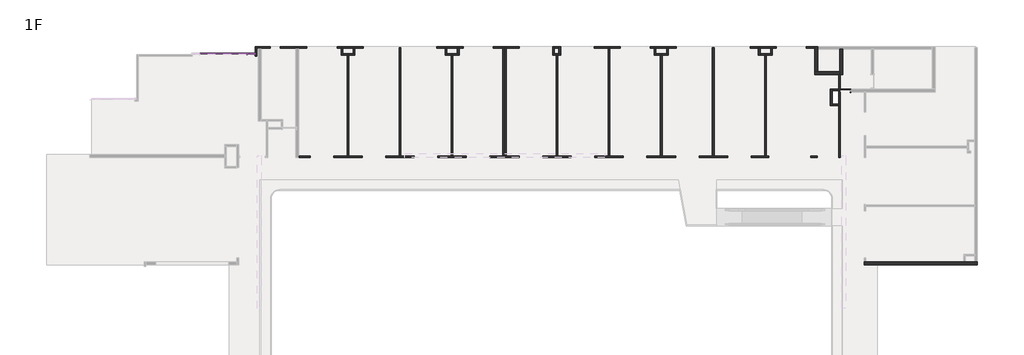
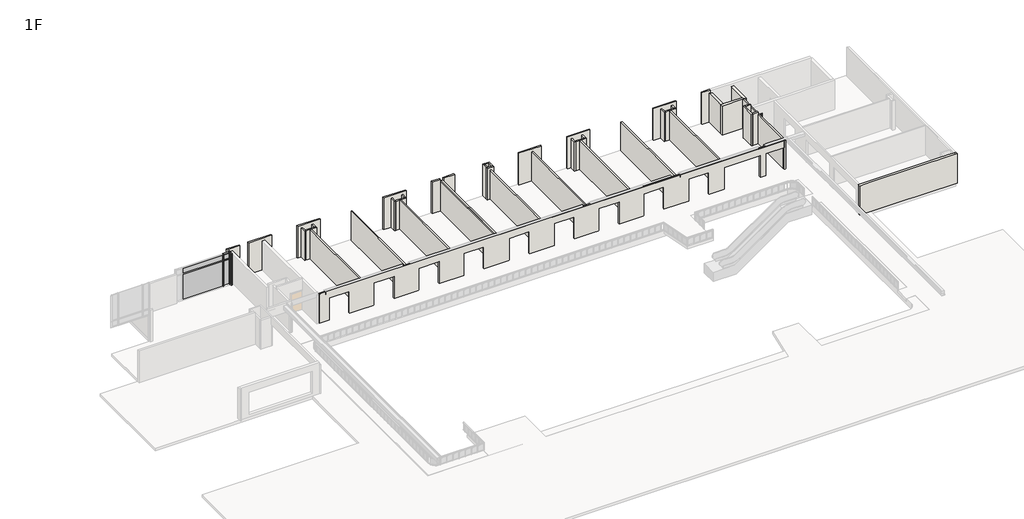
# One storey, part 4 of 5: 46 walls, 6 members, 4 plates, 1 door.
"""IFC4 building model written with IfcOpenShell, lengths in millimetres."""

from ifc_helpers import new_model, si_unit, frame, origin, place, context, project, spatial, polyline, outline, extrude, faceted_brep, transform, mapped, element, save
from components import m_single_flush_d_900x2150_afd04a23, rectangular_mullion_50_x_150mm_68b3818a, rectangular_mullion_50_x_150mm_64d38db8, rectangular_mullion_50_x_150mm_9e0f1e24, rectangular_mullion_50_x_150mm_dbb82e9e, rectangular_mullion_50_x_150mm_567c0dda, rectangular_mullion_50_x_150mm_fb6851b2, system_panel_glazed_6ff5b55b, system_panel_glazed_93ed122c, system_panel_glazed_ec0e8b53, system_panel_glazed_6d2359c6

model = new_model("IFC4")

# Units and contexts
model_context = context("Model", 3, world=origin())
ifc_project = project(units=[si_unit("LENGTHUNIT", "METRE", prefix="MILLI")], contexts=[model_context])

# Site, building, storey
site = spatial("IfcSite", under=ifc_project)
building = spatial("IfcBuilding", under=site)
storey = spatial("IfcBuildingStorey", under=building, Name="1F", Elevation=4650.0)

# Door
placement = place(None, origin())
m_single_flush_d_900x2150_shape = m_single_flush_d_900x2150_afd04a23(model_context)
element("IfcDoor", 1, ObjectType="M_Single-Flush : D-900x2150", at=placement, inside=storey, context=model_context, shape_type="MappedRepresentation", body=[
    mapped(m_single_flush_d_900x2150_shape, transform((31237.4134101, 17335.8851348, 4650.0), x_axis=(-1.0, 0.0, 0.0), y_axis=(0.0, -1.0, 0.0), z_axis=(0.0, 0.0, 1.0))),
])

# Members
rectangular_mullion_50_x_150mm_shape = rectangular_mullion_50_x_150mm_68b3818a(model_context)
element("IfcMember", 2, ObjectType="Rectangular Mullion : 50 x 150mm", at=placement, inside=storey, context=model_context, shape_type="MappedRepresentation", body=[
    mapped(rectangular_mullion_50_x_150mm_shape, transform((-21742.5865899, 20597.3851347, 7525.0), x_axis=(0.0, 0.0, 1.0), y_axis=(0.0, 1.0, 0.0), z_axis=(-1.0, 0.0, 0.0))),
])
rectangular_mullion_50_x_150mm_2_shape = rectangular_mullion_50_x_150mm_64d38db8(model_context)
element("IfcMember", 3, ObjectType="Rectangular Mullion : 50 x 150mm", at=placement, inside=storey, context=model_context, shape_type="MappedRepresentation", body=[
    mapped(rectangular_mullion_50_x_150mm_2_shape, transform((-21742.5865899, 20597.3851347, 8200.0), x_axis=(0.0, 0.0, 1.0), y_axis=(0.0, 1.0, 0.0), z_axis=(-1.0, 0.0, 0.0))),
])
rectangular_mullion_50_x_150mm_3_shape = rectangular_mullion_50_x_150mm_9e0f1e24(model_context)
element("IfcMember", 4, ObjectType="Rectangular Mullion : 50 x 150mm", at=placement, inside=storey, context=model_context, shape_type="MappedRepresentation", body=[
    mapped(rectangular_mullion_50_x_150mm_3_shape, transform((-21767.5865899, 20597.3851347, 7525.0), x_axis=(-1.0, 0.0, 0.0), y_axis=(0.0, 1.0, 0.0), z_axis=(0.0, 0.0, -1.0))),
])
rectangular_mullion_50_x_150mm_4_shape = rectangular_mullion_50_x_150mm_dbb82e9e(model_context)
element("IfcMember", 5, ObjectType="Rectangular Mullion : 50 x 150mm", at=placement, inside=storey, context=model_context, shape_type="MappedRepresentation", body=[
    mapped(rectangular_mullion_50_x_150mm_4_shape, transform((-21092.5865899, 20597.3851347, 8200.0), x_axis=(1.0, 0.0, 0.0), y_axis=(0.0, 1.0, 0.0), z_axis=(0.0, 0.0, 1.0))),
])
rectangular_mullion_50_x_150mm_5_shape = rectangular_mullion_50_x_150mm_567c0dda(model_context)
element("IfcMember", 6, ObjectType="Rectangular Mullion : 50 x 150mm", at=placement, inside=storey, context=model_context, shape_type="MappedRepresentation", body=[
    mapped(rectangular_mullion_50_x_150mm_5_shape, transform((-21767.5865899, 20597.3851347, 4750.0), x_axis=(-1.0, 0.0, 0.0), y_axis=(0.0, 1.0, 0.0), z_axis=(0.0, 0.0, -1.0))),
])
rectangular_mullion_50_x_150mm_6_shape = rectangular_mullion_50_x_150mm_fb6851b2(model_context)
element("IfcMember", 7, ObjectType="Rectangular Mullion : 50 x 150mm", at=placement, inside=storey, context=model_context, shape_type="MappedRepresentation", body=[
    mapped(rectangular_mullion_50_x_150mm_6_shape, transform((-21092.5865899, 20597.3851347, 7525.0), x_axis=(1.0, 0.0, 0.0), y_axis=(0.0, 1.0, 0.0), z_axis=(0.0, 0.0, 1.0))),
])

# Plates
system_panel_glazed_shape = system_panel_glazed_6ff5b55b(model_context)
element("IfcPlate", 8, ObjectType="System Panel : Glazed", at=placement, inside=storey, context=model_context, shape_type="MappedRepresentation", body=[
    mapped(system_panel_glazed_shape, transform((-21442.5865899, 20597.3851347, 4750.0), x_axis=(-1.0, 0.0, 0.0), y_axis=(0.0, -1.0, 0.0), z_axis=(0.0, 0.0, 1.0))),
])
system_panel_glazed_2_shape = system_panel_glazed_93ed122c(model_context)
element("IfcPlate", 9, ObjectType="System Panel : Glazed", at=placement, inside=storey, context=model_context, shape_type="MappedRepresentation", body=[
    mapped(system_panel_glazed_2_shape, transform((-21442.5865899, 20597.3851347, 7550.0), x_axis=(-1.0, 0.0, 0.0), y_axis=(0.0, -1.0, 0.0), z_axis=(0.0, 0.0, 1.0))),
])
system_panel_glazed_3_shape = system_panel_glazed_ec0e8b53(model_context)
element("IfcPlate", 10, ObjectType="System Panel : Glazed", at=placement, inside=storey, context=model_context, shape_type="MappedRepresentation", body=[
    mapped(system_panel_glazed_3_shape, transform((-23885.0865899, 20597.3851347, 7550.0), x_axis=(-1.0, 0.0, 0.0), y_axis=(0.0, -1.0, 0.0), z_axis=(0.0, 0.0, 1.0))),
])
system_panel_glazed_4_shape = system_panel_glazed_6d2359c6(model_context)
element("IfcPlate", 11, ObjectType="System Panel : Glazed", at=placement, inside=storey, context=model_context, shape_type="MappedRepresentation", body=[
    mapped(system_panel_glazed_4_shape, transform((-23885.0865899, 20597.3851347, 4750.0), x_axis=(-1.0, 0.0, 0.0), y_axis=(0.0, -1.0, 0.0), z_axis=(0.0, 0.0, 1.0))),
])

# Walls
element("IfcWall", 12, ObjectType="wall-115", at=placement, inside=storey, context=model_context, shape_type="Brep", body=[
    faceted_brep([(-4207.5865899, 21117.3851347, 4650.0), (-4207.5865899, 20487.3851347, 4650.0), (-4207.5865899, 20487.3851347, 7825.0), (-4207.5865899, 21117.3851347, 7825.0), (-4065.5865899, 21117.3851347, 4650.0), (-4065.5865899, 21117.3851347, 7825.0), (-4065.5865899, 20629.3851347, 7825.0), (-4065.5865899, 20487.3851347, 7825.0), (-4065.5865899, 20487.3851347, 4650.0), (-4065.5865899, 20629.3851347, 4650.0)], [[[0, 1, 2, 3]], [[4, 5, 6, 7, 8, 9]], [[1, 0, 4, 9, 8]], [[2, 1, 8, 7]], [[0, 3, 5, 4]], [[3, 2, 7, 6, 5]]]),
])
element("IfcWall", 13, ObjectType="wall-115", at=placement, inside=storey, context=model_context, shape_type="Brep", body=[
    faceted_brep([(-4065.5865899, 20487.3851347, 4650.0), (-3665.0865899, 20487.3851347, 4650.0), (-3523.0865899, 20487.3851347, 4650.0), (-2977.5865899, 20487.3851347, 4650.0), (-2977.5865899, 20487.3851347, 7825.0), (-3523.0865899, 20487.3851347, 7825.0), (-3665.0865899, 20487.3851347, 7825.0), (-4065.5865899, 20487.3851347, 7825.0), (-4065.5865899, 20629.3851347, 4650.0), (-4065.5865899, 20629.3851347, 7825.0), (-3119.5865899, 20629.3851347, 7825.0), (-2977.5865899, 20629.3851347, 7825.0), (-2977.5865899, 20629.3851347, 4650.0), (-3119.5865899, 20629.3851347, 4650.0)], [[[0, 1, 2, 3, 4, 5, 6, 7]], [[8, 9, 10, 11, 12, 13]], [[3, 2, 1, 0, 8, 13, 12]], [[0, 7, 9, 8]], [[4, 3, 12, 11]], [[7, 6, 5, 4, 11, 10, 9]]]),
])
element("IfcWall", 14, ObjectType="wall-115", at=placement, inside=storey, context=model_context, shape_type="SweptSolid", body=[
    extrude(outline(polyline([(-2977.5865899, 21117.3851347), (-2977.5865899, 20629.3851347), (-3119.5865899, 20629.3851347), (-3119.5865899, 21117.3851347), (-2977.5865899, 21117.3851347)])), frame((0.0, 0.0, 4650.0), z_axis=(0.0, 0.0, 1.0), x_axis=(1.0, 0.0, 0.0)), (0.0, 0.0, 1.0), 3175.0),
])
element("IfcWall", 15, ObjectType="wall-115", at=placement, inside=storey, context=model_context, shape_type="SweptSolid", body=[
    extrude(outline(polyline([(-3665.0865899, 11527.3851347), (-3665.0865899, 20487.3851347), (-3523.0865899, 20487.3851347), (-3523.0865899, 11527.3851347), (-3665.0865899, 11527.3851347)])), frame((0.0, 0.0, 4650.0), z_axis=(0.0, 0.0, 1.0), x_axis=(1.0, 0.0, 0.0)), (0.0, 0.0, 1.0), 3175.0),
])
element("IfcWall", 16, ObjectType="wall-115", at=placement, inside=storey, context=model_context, shape_type="SweptSolid", body=[
    extrude(outline(polyline([(-8280.0865899, 11527.3851347), (-8280.0865899, 21132.3851347), (-8138.0865899, 21132.3851347), (-8138.0865899, 11527.3851347), (-8280.0865899, 11527.3851347)])), frame((0.0, 0.0, 4650.0), z_axis=(0.0, 0.0, 1.0), x_axis=(1.0, 0.0, 0.0)), (0.0, 0.0, 1.0), 3175.0),
])
element("IfcWall", 17, ObjectType="wall-115", at=placement, inside=storey, context=model_context, shape_type="Brep", body=[
    faceted_brep([(-13437.5865899, 21117.3851347, 4650.0), (-13437.5865899, 20487.3851347, 4650.0), (-13437.5865899, 20487.3851347, 7825.0), (-13437.5865899, 21117.3851347, 7825.0), (-13295.5865899, 21117.3851347, 4650.0), (-13295.5865899, 21117.3851347, 7825.0), (-13295.5865899, 20629.3851347, 7825.0), (-13295.5865899, 20487.3851347, 7825.0), (-13295.5865899, 20487.3851347, 4650.0), (-13295.5865899, 20629.3851347, 4650.0)], [[[0, 1, 2, 3]], [[4, 5, 6, 7, 8, 9]], [[1, 0, 4, 9, 8]], [[2, 1, 8, 7]], [[0, 3, 5, 4]], [[3, 2, 7, 6, 5]]]),
])
element("IfcWall", 18, ObjectType="wall-115", at=placement, inside=storey, context=model_context, shape_type="Brep", body=[
    faceted_brep([(-13295.5865899, 20487.3851347, 4650.0), (-12895.0865899, 20487.3851347, 4650.0), (-12753.0865899, 20487.3851347, 4650.0), (-12207.5865899, 20487.3851347, 4650.0), (-12207.5865899, 20487.3851347, 7825.0), (-12753.0865899, 20487.3851347, 7825.0), (-12895.0865899, 20487.3851347, 7825.0), (-13295.5865899, 20487.3851347, 7825.0), (-13295.5865899, 20629.3851347, 4650.0), (-13295.5865899, 20629.3851347, 7825.0), (-12349.5865899, 20629.3851347, 7825.0), (-12207.5865899, 20629.3851347, 7825.0), (-12207.5865899, 20629.3851347, 4650.0), (-12349.5865899, 20629.3851347, 4650.0)], [[[0, 1, 2, 3, 4, 5, 6, 7]], [[8, 9, 10, 11, 12, 13]], [[3, 2, 1, 0, 8, 13, 12]], [[0, 7, 9, 8]], [[4, 3, 12, 11]], [[7, 6, 5, 4, 11, 10, 9]]]),
])
element("IfcWall", 19, ObjectType="wall-115", at=placement, inside=storey, context=model_context, shape_type="SweptSolid", body=[
    extrude(outline(polyline([(-12207.5865899, 21117.3851347), (-12207.5865899, 20629.3851347), (-12349.5865899, 20629.3851347), (-12349.5865899, 21117.3851347), (-12207.5865899, 21117.3851347)])), frame((0.0, 0.0, 4650.0), z_axis=(0.0, 0.0, 1.0), x_axis=(1.0, 0.0, 0.0)), (0.0, 0.0, 1.0), 3175.0),
])
element("IfcWall", 20, ObjectType="wall-115", at=placement, inside=storey, context=model_context, shape_type="SweptSolid", body=[
    extrude(outline(polyline([(-12895.0865899, 11527.3851347), (-12895.0865899, 20487.3851347), (-12753.0865899, 20487.3851347), (-12753.0865899, 11527.3851347), (-12895.0865899, 11527.3851347)])), frame((0.0, 0.0, 4650.0), z_axis=(0.0, 0.0, 1.0), x_axis=(1.0, 0.0, 0.0)), (0.0, 0.0, 1.0), 3175.0),
])
element("IfcWall", 21, ObjectType="wall-115", at=placement, inside=storey, context=model_context, shape_type="SweptSolid", body=[
    extrude(outline(polyline([(24099.9134101, 11527.3851347), (24099.9134101, 20487.3851347), (24241.9134101, 20487.3851347), (24241.9134101, 11527.3851347), (24099.9134101, 11527.3851347)])), frame((0.0, 0.0, 4650.0), z_axis=(0.0, 0.0, 1.0), x_axis=(1.0, 0.0, 0.0)), (0.0, 0.0, 1.0), 3175.0),
])
element("IfcWall", 22, ObjectType="wall-115", at=placement, inside=storey, context=model_context, shape_type="SweptSolid", body=[
    extrude(outline(polyline([(19484.9134101, 11527.3851347), (19484.9134101, 21132.3851347), (19626.9134101, 21132.3851347), (19626.9134101, 11527.3851347), (19484.9134101, 11527.3851347)])), frame((0.0, 0.0, 4650.0), z_axis=(0.0, 0.0, 1.0), x_axis=(1.0, 0.0, 0.0)), (0.0, 0.0, 1.0), 3175.0),
])
element("IfcWall", 23, ObjectType="wall-115", at=placement, inside=storey, context=model_context, shape_type="SweptSolid", body=[
    extrude(outline(polyline([(14869.9134101, 11527.3851347), (14869.9134101, 20487.3851347), (15011.9134101, 20487.3851347), (15011.9134101, 11527.3851347), (14869.9134101, 11527.3851347)])), frame((0.0, 0.0, 4650.0), z_axis=(0.0, 0.0, 1.0), x_axis=(1.0, 0.0, 0.0)), (0.0, 0.0, 1.0), 3175.0),
])
element("IfcWall", 24, ObjectType="wall-115", at=placement, inside=storey, context=model_context, shape_type="SweptSolid", body=[
    extrude(outline(polyline([(10254.9134101, 11527.3851347), (10254.9134101, 21117.3851347), (10396.9134101, 21117.3851347), (10396.9134101, 11527.3851347), (10254.9134101, 11527.3851347)])), frame((0.0, 0.0, 4650.0), z_axis=(0.0, 0.0, 1.0), x_axis=(1.0, 0.0, 0.0)), (0.0, 0.0, 1.0), 3175.0),
])
element("IfcWall", 25, ObjectType="wall-115", at=placement, inside=storey, context=model_context, shape_type="SweptSolid", body=[
    extrude(outline(polyline([(5639.9134101, 11527.3851347), (5639.9134101, 20487.3851347), (5781.9134101, 20487.3851347), (5781.9134101, 11527.3851347), (5639.9134101, 11527.3851347)])), frame((0.0, 0.0, 4650.0), z_axis=(0.0, 0.0, 1.0), x_axis=(1.0, 0.0, 0.0)), (0.0, 0.0, 1.0), 3175.0),
])
element("IfcWall", 26, ObjectType="wall-115", at=placement, inside=storey, context=model_context, shape_type="Brep", body=[
    faceted_brep([(1082.4134101, 21259.3851347, 4650.0), (1082.4134101, 11527.3851347, 4650.0), (1082.4134101, 11527.3851347, 7825.0), (1082.4134101, 21259.3851347, 7825.0), (1224.4134101, 21259.3851347, 4650.0), (1224.4134101, 21259.3851347, 7825.0), (1224.4134101, 11527.3851347, 7825.0), (1224.4134101, 11527.3851347, 4650.0), (1224.4134101, 21117.3851347, 4650.0)], [[[0, 1, 2, 3]], [[4, 5, 6, 7, 8]], [[1, 0, 4, 8, 7]], [[0, 3, 5, 4]], [[2, 1, 7, 6]], [[3, 2, 6, 5]]]),
])
element("IfcWall", 27, ObjectType="wall-115", at=placement, inside=storey, context=model_context, shape_type="Brep", body=[
    faceted_brep([(14327.4134101, 21117.3851347, 4650.0), (14327.4134101, 20487.3851347, 4650.0), (14327.4134101, 20487.3851347, 7825.0), (14327.4134101, 21117.3851347, 7825.0), (14469.4134101, 21117.3851347, 4650.0), (14469.4134101, 21117.3851347, 7825.0), (14469.4134101, 20629.3851347, 7825.0), (14469.4134101, 20487.3851347, 7825.0), (14469.4134101, 20487.3851347, 4650.0), (14469.4134101, 20629.3851347, 4650.0)], [[[0, 1, 2, 3]], [[4, 5, 6, 7, 8, 9]], [[1, 0, 4, 9, 8]], [[2, 1, 8, 7]], [[0, 3, 5, 4]], [[3, 2, 7, 6, 5]]]),
])
element("IfcWall", 28, ObjectType="wall-115", at=placement, inside=storey, context=model_context, shape_type="Brep", body=[
    faceted_brep([(14469.4134101, 20487.3851347, 4650.0), (14869.9134101, 20487.3851347, 4650.0), (15011.9134101, 20487.3851347, 4650.0), (15557.4134101, 20487.3851347, 4650.0), (15557.4134101, 20487.3851347, 7825.0), (15011.9134101, 20487.3851347, 7825.0), (14869.9134101, 20487.3851347, 7825.0), (14469.4134101, 20487.3851347, 7825.0), (14469.4134101, 20629.3851347, 4650.0), (14469.4134101, 20629.3851347, 7825.0), (15415.4134101, 20629.3851347, 7825.0), (15557.4134101, 20629.3851347, 7825.0), (15557.4134101, 20629.3851347, 4650.0), (15415.4134101, 20629.3851347, 4650.0)], [[[0, 1, 2, 3, 4, 5, 6, 7]], [[8, 9, 10, 11, 12, 13]], [[3, 2, 1, 0, 8, 13, 12]], [[4, 3, 12, 11]], [[0, 7, 9, 8]], [[7, 6, 5, 4, 11, 10, 9]]]),
])
element("IfcWall", 29, ObjectType="wall-115", at=placement, inside=storey, context=model_context, shape_type="SweptSolid", body=[
    extrude(outline(polyline([(15557.4134101, 21117.3851347), (15557.4134101, 20629.3851347), (15415.4134101, 20629.3851347), (15415.4134101, 21117.3851347), (15557.4134101, 21117.3851347)])), frame((0.0, 0.0, 4650.0), z_axis=(0.0, 0.0, 1.0), x_axis=(1.0, 0.0, 0.0)), (0.0, 0.0, 1.0), 3175.0),
])
element("IfcWall", 30, ObjectType="wall-115", at=placement, inside=storey, context=model_context, shape_type="Brep", body=[
    faceted_brep([(23557.4134101, 21117.3851347, 4650.0), (23557.4134101, 20487.3851347, 4650.0), (23557.4134101, 20487.3851347, 7825.0), (23557.4134101, 21117.3851347, 7825.0), (23699.4134101, 21117.3851347, 4650.0), (23699.4134101, 21117.3851347, 7825.0), (23699.4134101, 20629.3851347, 7825.0), (23699.4134101, 20487.3851347, 7825.0), (23699.4134101, 20487.3851347, 4650.0), (23699.4134101, 20629.3851347, 4650.0)], [[[0, 1, 2, 3]], [[4, 5, 6, 7, 8, 9]], [[1, 0, 4, 9, 8]], [[2, 1, 8, 7]], [[0, 3, 5, 4]], [[3, 2, 7, 6, 5]]]),
])
element("IfcWall", 31, ObjectType="wall-115", at=placement, inside=storey, context=model_context, shape_type="Brep", body=[
    faceted_brep([(23699.4134101, 20487.3851347, 4650.0), (24099.9134101, 20487.3851347, 4650.0), (24241.9134101, 20487.3851347, 4650.0), (24787.4134101, 20487.3851347, 4650.0), (24787.4134101, 20487.3851347, 7825.0), (24241.9134101, 20487.3851347, 7825.0), (24099.9134101, 20487.3851347, 7825.0), (23699.4134101, 20487.3851347, 7825.0), (23699.4134101, 20629.3851347, 4650.0), (23699.4134101, 20629.3851347, 7825.0), (24645.4134101, 20629.3851347, 7825.0), (24787.4134101, 20629.3851347, 7825.0), (24787.4134101, 20629.3851347, 4650.0), (24645.4134101, 20629.3851347, 4650.0)], [[[0, 1, 2, 3, 4, 5, 6, 7]], [[8, 9, 10, 11, 12, 13]], [[3, 2, 1, 0, 8, 13, 12]], [[4, 3, 12, 11]], [[0, 7, 9, 8]], [[7, 6, 5, 4, 11, 10, 9]]]),
])
element("IfcWall", 32, ObjectType="wall-115", at=placement, inside=storey, context=model_context, shape_type="SweptSolid", body=[
    extrude(outline(polyline([(24787.4134101, 21117.3851347), (24787.4134101, 20629.3851347), (24645.4134101, 20629.3851347), (24645.4134101, 21117.3851347), (24787.4134101, 21117.3851347)])), frame((0.0, 0.0, 4650.0), z_axis=(0.0, 0.0, 1.0), x_axis=(1.0, 0.0, 0.0)), (0.0, 0.0, 1.0), 3175.0),
])
element("IfcWall", 33, ObjectType="wall-115", at=placement, inside=storey, context=model_context, shape_type="Brep", body=[
    faceted_brep([(892.4134101, 21259.3851347, 4650.0), (892.4134101, 21117.3851347, 4650.0), (892.4134101, 11527.3851347, 4650.0), (892.4134101, 11527.3851347, 7825.0), (892.4134101, 21259.3851347, 7825.0), (1034.4134101, 21259.3851347, 4650.0), (1034.4134101, 21259.3851347, 7825.0), (1034.4134101, 11527.3851347, 7825.0), (1034.4134101, 11527.3851347, 4650.0)], [[[0, 1, 2, 3, 4]], [[5, 6, 7, 8]], [[2, 1, 0, 5, 8]], [[0, 4, 6, 5]], [[3, 2, 8, 7]], [[4, 3, 7, 6]]]),
])
element("IfcWall", 34, ObjectType="wall-115", at=placement, inside=storey, context=model_context, shape_type="Brep", body=[
    faceted_brep([(30657.4134101, 18772.3851347, 7825.0), (30657.4134101, 18772.3851347, 4650.0), (30657.4134101, 17464.3851347, 4650.0), (30657.4134101, 17322.3851347, 4650.0), (30657.4134101, 16149.3851347, 4650.0), (30657.4134101, 16007.3851347, 4650.0), (30657.4134101, 11527.3851347, 4650.0), (30657.4134101, 11527.3851347, 7050.0), (30657.4134101, 11385.3851347, 7050.0), (30657.4134101, 11385.3851347, 7825.0), (30657.4134101, 11409.3851347, 7825.0), (30657.4134101, 11527.3851347, 7825.0), (30799.4134101, 11385.3851347, 7825.0), (30799.4134101, 11385.3851347, 4650.0), (30799.4134101, 17207.3851348, 4650.0), (30799.4134101, 17207.3851348, 6800.0), (30799.4134101, 17464.3851348, 6800.0), (30799.4134101, 17464.3851348, 4650.0), (30799.4134101, 18772.3851347, 4650.0), (30799.4134101, 18772.3851347, 7825.0), (30799.4134101, 17464.3851348, 7825.0), (30799.4134101, 17207.3851348, 7825.0), (30799.4134101, 11409.3851347, 7825.0), (30775.4134101, 18772.3851347, 4650.0), (30787.4134101, 17464.3851348, 4650.0), (30787.4134101, 17207.3851348, 4650.0), (30672.4134101, 11385.3851347, 4650.0), (30672.4134101, 11527.3851347, 4650.0), (30672.4134101, 11385.3851347, 7050.0), (30775.4134101, 18772.3851347, 7825.0), (30672.4134101, 11527.3851347, 7050.0), (30787.4134101, 17464.3851348, 6800.0), (30787.4134101, 17207.3851348, 6800.0)], [[[0, 1, 2, 3, 4, 5, 6, 7, 8, 9, 10, 11]], [[12, 13, 14, 15, 16, 17, 18, 19, 20, 21, 22]], [[1, 23, 18, 17, 24, 25, 14, 13, 26, 27, 6, 5, 4, 3, 2]], [[13, 12, 9, 8, 28, 26]], [[1, 0, 29, 19, 18, 23]], [[9, 12, 22, 10]], [[0, 11, 10, 22, 21, 20, 19, 29]], [[27, 30, 7, 6]], [[30, 28, 8, 7]], [[30, 27, 26, 28]], [[31, 24, 17, 16]], [[25, 32, 15, 14]], [[24, 31, 32, 25]], [[32, 31, 16, 15]]]),
])
element("IfcWall", 35, ObjectType="wall-115", at=placement, inside=storey, context=model_context, shape_type="Brep", body=[
    faceted_brep([(30657.4134101, 11385.3851347, 7825.0), (-17192.5865899, 11385.3851347, 7825.0), (-17192.5865899, 11385.3851347, 4650.0), (-16171.0093248, 11385.3851347, 4650.0), (-16171.0093248, 11385.3851347, 7050.0), (-14089.1638549, 11385.3851347, 7050.0), (-14089.1638549, 11385.3851347, 4650.0), (-11556.0093248, 11385.3851347, 4650.0), (-11556.0093248, 11385.3851347, 7050.0), (-9474.1638549, 11385.3851347, 7050.0), (-9474.1638549, 11385.3851347, 4650.0), (-6941.0093248, 11385.3851347, 4650.0), (-6941.0093248, 11385.3851347, 7050.0), (-4859.1638549, 11385.3851347, 7050.0), (-4859.1638549, 11385.3851347, 4650.0), (-2326.0093248, 11385.3851347, 4650.0), (-2326.0093248, 11385.3851347, 7050.0), (-244.1638549, 11385.3851347, 7050.0), (-244.1638549, 11385.3851347, 4650.0), (2363.9906752, 11385.3851347, 4650.0), (2363.9906752, 11385.3851347, 7050.0), (4445.8361451, 11385.3851347, 7050.0), (4445.8361451, 11385.3851347, 4650.0), (6978.9906752, 11385.3851347, 4650.0), (6978.9906752, 11385.3851347, 7050.0), (9060.8361451, 11385.3851347, 7050.0), (9060.8361451, 11385.3851347, 4650.0), (11593.9906752, 11385.3851347, 4650.0), (11593.9906752, 11385.3851347, 7050.0), (13675.8361451, 11385.3851347, 7050.0), (13675.8361451, 11385.3851347, 4650.0), (16208.9906752, 11385.3851347, 4650.0), (16208.9906752, 11385.3851347, 7050.0), (18290.8361451, 11385.3851347, 7050.0), (18290.8361451, 11385.3851347, 4650.0), (20823.9906752, 11385.3851347, 4650.0), (20823.9906752, 11385.3851347, 7050.0), (22905.8361451, 11385.3851347, 7050.0), (22905.8361451, 11385.3851347, 4650.0), (24472.4134101, 11385.3851347, 4650.0), (24472.4134101, 11385.3851347, 7050.0), (28187.4134101, 11385.3851347, 7050.0), (28187.4134101, 11385.3851347, 4650.0), (28787.4134101, 11385.3851347, 4650.0), (28787.4134101, 11385.3851347, 7050.0), (30657.4134101, 11385.3851347, 7050.0), (-17192.5865899, 11527.3851347, 4650.0), (-17192.5865899, 11527.3851347, 7825.0), (-12895.0865899, 11527.3851347, 7825.0), (-12753.0865899, 11527.3851347, 7825.0), (-8280.0865899, 11527.3851347, 7825.0), (-8138.0865899, 11527.3851347, 7825.0), (-3665.0865899, 11527.3851347, 7825.0), (-3523.0865899, 11527.3851347, 7825.0), (892.4134101, 11527.3851347, 7825.0), (1034.4134101, 11527.3851347, 7825.0), (1082.4134101, 11527.3851347, 7825.0), (1224.4134101, 11527.3851347, 7825.0), (5639.9134101, 11527.3851347, 7825.0), (5781.9134101, 11527.3851347, 7825.0), (10254.9134101, 11527.3851347, 7825.0), (10396.9134101, 11527.3851347, 7825.0), (14869.9134101, 11527.3851347, 7825.0), (15011.9134101, 11527.3851347, 7825.0), (19484.9134101, 11527.3851347, 7825.0), (19626.9134101, 11527.3851347, 7825.0), (24099.9134101, 11527.3851347, 7825.0), (24241.9134101, 11527.3851347, 7825.0), (30657.4134101, 11527.3851347, 7825.0), (30657.4134101, 11527.3851347, 7050.0), (28787.4134101, 11527.3851347, 7050.0), (28787.4134101, 11527.3851347, 4650.0), (28187.4134101, 11527.3851347, 4650.0), (28187.4134101, 11527.3851347, 7050.0), (24472.4134101, 11527.3851347, 7050.0), (24472.4134101, 11527.3851347, 4650.0), (24241.9134101, 11527.3851347, 4650.0), (24099.9134101, 11527.3851347, 4650.0), (22905.8361451, 11527.3851347, 4650.0), (22905.8361451, 11527.3851347, 7050.0), (20823.9906752, 11527.3851347, 7050.0), (20823.9906752, 11527.3851347, 4650.0), (19626.9134101, 11527.3851347, 4650.0), (19484.9134101, 11527.3851347, 4650.0), (18290.8361451, 11527.3851347, 4650.0), (18290.8361451, 11527.3851347, 7050.0), (16208.9906752, 11527.3851347, 7050.0), (16208.9906752, 11527.3851347, 4650.0), (15011.9134101, 11527.3851347, 4650.0), (14869.9134101, 11527.3851347, 4650.0), (13675.8361451, 11527.3851347, 4650.0), (13675.8361451, 11527.3851347, 7050.0), (11593.9906752, 11527.3851347, 7050.0), (11593.9906752, 11527.3851347, 4650.0), (10396.9134101, 11527.3851347, 4650.0), (10254.9134101, 11527.3851347, 4650.0), (9060.8361451, 11527.3851347, 4650.0), (9060.8361451, 11527.3851347, 7050.0), (6978.9906752, 11527.3851347, 7050.0), (6978.9906752, 11527.3851347, 4650.0), (5781.9134101, 11527.3851347, 4650.0), (5639.9134101, 11527.3851347, 4650.0), (4445.8361451, 11527.3851347, 4650.0), (4445.8361451, 11527.3851347, 7050.0), (2363.9906752, 11527.3851347, 7050.0), (2363.9906752, 11527.3851347, 4650.0), (1224.4134101, 11527.3851347, 4650.0), (1082.4134101, 11527.3851347, 4650.0), (1034.4134101, 11527.3851347, 4650.0), (892.4134101, 11527.3851347, 4650.0), (-244.1638549, 11527.3851347, 4650.0), (-244.1638549, 11527.3851347, 7050.0), (-2326.0093248, 11527.3851347, 7050.0), (-2326.0093248, 11527.3851347, 4650.0), (-3523.0865899, 11527.3851347, 4650.0), (-3665.0865899, 11527.3851347, 4650.0), (-4859.1638549, 11527.3851347, 4650.0), (-4859.1638549, 11527.3851347, 7050.0), (-6941.0093248, 11527.3851347, 7050.0), (-6941.0093248, 11527.3851347, 4650.0), (-8138.0865899, 11527.3851347, 4650.0), (-8280.0865899, 11527.3851347, 4650.0), (-9474.1638549, 11527.3851347, 4650.0), (-9474.1638549, 11527.3851347, 7050.0), (-11556.0093248, 11527.3851347, 7050.0), (-11556.0093248, 11527.3851347, 4650.0), (-12753.0865899, 11527.3851347, 4650.0), (-12895.0865899, 11527.3851347, 4650.0), (-14089.1638549, 11527.3851347, 4650.0), (-14089.1638549, 11527.3851347, 7050.0), (-16171.0093248, 11527.3851347, 7050.0), (-16171.0093248, 11527.3851347, 4650.0), (30657.4134101, 11409.3851347, 7825.0), (-17192.5865899, 11409.3851347, 7825.0), (19869.4134101, 11409.3851347, 7825.0), (16102.6351768, 11409.3851347, 7825.0)], [[[0, 1, 2, 3, 4, 5, 6, 7, 8, 9, 10, 11, 12, 13, 14, 15, 16, 17, 18, 19, 20, 21, 22, 23, 24, 25, 26, 27, 28, 29, 30, 31, 32, 33, 34, 35, 36, 37, 38, 39, 40, 41, 42, 43, 44, 45]], [[46, 47, 48, 49, 50, 51, 52, 53, 54, 55, 56, 57, 58, 59, 60, 61, 62, 63, 64, 65, 66, 67, 68, 69, 70, 71, 72, 73, 74, 75, 76, 77, 78, 79, 80, 81, 82, 83, 84, 85, 86, 87, 88, 89, 90, 91, 92, 93, 94, 95, 96, 97, 98, 99, 100, 101, 102, 103, 104, 105, 106, 107, 108, 109, 110, 111, 112, 113, 114, 115, 116, 117, 118, 119, 120, 121, 122, 123, 124, 125, 126, 127, 128, 129, 130, 131]], [[2, 46, 131, 3]], [[10, 122, 121, 120, 119, 11]], [[125, 7, 6, 128, 127, 126]], [[14, 116, 115, 114, 113, 15]], [[18, 110, 109, 108, 107, 106, 105, 19]], [[22, 102, 101, 100, 99, 23]], [[26, 96, 95, 94, 93, 27]], [[30, 90, 89, 88, 87, 31]], [[34, 84, 83, 82, 81, 35]], [[38, 78, 77, 76, 75, 39]], [[42, 72, 71, 43]], [[132, 0, 45, 69, 68]], [[2, 1, 133, 47, 46]], [[1, 0, 132, 134, 135, 133]], [[132, 68, 67, 66, 65, 64, 63, 62, 61, 60, 59, 58, 57, 56, 55, 54, 53, 52, 51, 50, 49, 48, 47, 133, 135, 134]], [[9, 8, 124, 123]], [[10, 9, 123, 122]], [[8, 7, 125, 124]], [[5, 4, 130, 129]], [[6, 5, 129, 128]], [[4, 3, 131, 130]], [[13, 12, 118, 117]], [[14, 13, 117, 116]], [[12, 11, 119, 118]], [[17, 16, 112, 111]], [[18, 17, 111, 110]], [[16, 15, 113, 112]], [[21, 20, 104, 103]], [[22, 21, 103, 102]], [[20, 19, 105, 104]], [[25, 24, 98, 97]], [[26, 25, 97, 96]], [[24, 23, 99, 98]], [[29, 28, 92, 91]], [[30, 29, 91, 90]], [[28, 27, 93, 92]], [[33, 32, 86, 85]], [[34, 33, 85, 84]], [[32, 31, 87, 86]], [[37, 36, 80, 79]], [[38, 37, 79, 78]], [[36, 35, 81, 80]], [[41, 40, 74, 73]], [[42, 41, 73, 72]], [[40, 39, 75, 74]], [[44, 70, 69, 45]], [[70, 44, 43, 71]]]),
])
element("IfcWall", 36, ObjectType="wall-115", at=placement, inside=storey, context=model_context, shape_type="Brep", body=[
    faceted_brep([(29942.4134101, 17464.3851347, 4650.0), (29942.4134101, 16007.3851347, 4650.0), (29942.4134101, 16007.3851347, 8100.0), (29942.4134101, 17464.3851347, 8100.0), (30084.4134101, 17464.3851347, 4650.0), (30084.4134101, 17464.3851347, 8100.0), (30084.4134101, 17322.3851347, 8100.0), (30084.4134101, 16149.3851347, 8100.0), (30084.4134101, 16007.3851347, 8100.0), (30084.4134101, 16007.3851347, 4650.0), (30084.4134101, 16149.3851347, 4650.0), (30084.4134101, 17322.3851347, 4650.0)], [[[0, 1, 2, 3]], [[4, 5, 6, 7, 8, 9, 10, 11]], [[1, 0, 4, 11, 10, 9]], [[3, 2, 8, 7, 6, 5]], [[2, 1, 9, 8]], [[0, 3, 5, 4]]]),
])
element("IfcWall", 37, ObjectType="wall-115", at=placement, inside=storey, context=model_context, shape_type="SweptSolid", body=[
    extrude(outline(polyline([(30084.4134101, 17464.3851347), (30657.4134101, 17464.3851347), (30657.4134101, 17322.3851347), (30084.4134101, 17322.3851347), (30084.4134101, 17464.3851347)])), frame((0.0, 0.0, 4650.0), z_axis=(0.0, 0.0, 1.0), x_axis=(1.0, 0.0, 0.0)), (0.0, 0.0, 1.0), 3450.0),
])
element("IfcWall", 38, ObjectType="wall-115", at=placement, inside=storey, context=model_context, shape_type="SweptSolid", body=[
    extrude(outline(polyline([(30084.4134101, 16149.3851347), (30657.4134101, 16149.3851347), (30657.4134101, 16007.3851347), (30084.4134101, 16007.3851347), (30084.4134101, 16149.3851347)])), frame((0.0, 0.0, 4650.0), z_axis=(0.0, 0.0, 1.0), x_axis=(1.0, 0.0, 0.0)), (0.0, 0.0, 1.0), 3450.0),
])
element("IfcWall", 39, ObjectType="wall-115", at=placement, inside=storey, context=model_context, shape_type="Brep", body=[
    faceted_brep([(-20909.0865899, 21117.3851347, 4650.0), (-20782.5865899, 21117.3851347, 4650.0), (-20525.5865899, 21117.3851347, 4650.0), (-19737.5865899, 21117.3851347, 4650.0), (-19737.5865899, 21117.3851347, 8100.0), (-20909.0865899, 21117.3851347, 8100.0), (-20909.0865899, 21259.3851347, 4650.0), (-20909.0865899, 21259.3851347, 8100.0), (-19737.5865899, 21259.3851347, 8100.0), (-19737.5865899, 21259.3851347, 4650.0)], [[[0, 1, 2, 3, 4, 5]], [[6, 7, 8, 9]], [[3, 2, 1, 0, 6, 9]], [[4, 3, 9, 8]], [[5, 4, 8, 7]], [[0, 5, 7, 6]]]),
])
element("IfcWall", 40, ObjectType="wall-115", at=placement, inside=storey, context=model_context, shape_type="Brep", body=[
    faceted_brep([(-4937.5865899, 21117.3851347, 4650.0), (-4207.5865899, 21117.3851347, 4650.0), (-4065.5865899, 21117.3851347, 4650.0), (-3119.5865899, 21117.3851347, 4650.0), (-2977.5865899, 21117.3851347, 4650.0), (-2617.5865899, 21117.3851347, 4650.0), (-2617.5865899, 21117.3851347, 8100.0), (-4937.5865899, 21117.3851347, 8100.0), (-4937.5865899, 21259.3851347, 4650.0), (-4937.5865899, 21259.3851347, 8100.0), (-2617.5865899, 21259.3851347, 8100.0), (-2617.5865899, 21259.3851347, 4650.0)], [[[0, 1, 2, 3, 4, 5, 6, 7]], [[8, 9, 10, 11]], [[5, 4, 3, 2, 1, 0, 8, 11]], [[6, 5, 11, 10]], [[7, 6, 10, 9]], [[0, 7, 9, 8]]]),
])
element("IfcWall", 41, ObjectType="wall-115", at=placement, inside=storey, context=model_context, shape_type="Brep", body=[
    faceted_brep([(13967.4134101, 21117.3851347, 4650.0), (14327.4134101, 21117.3851347, 4650.0), (14469.4134101, 21117.3851347, 4650.0), (15415.4134101, 21117.3851347, 4650.0), (15557.4134101, 21117.3851347, 4650.0), (16287.4134101, 21117.3851347, 4650.0), (16287.4134101, 21117.3851347, 8100.0), (13967.4134101, 21117.3851347, 8100.0), (13967.4134101, 21259.3851347, 4650.0), (13967.4134101, 21259.3851347, 8100.0), (16287.4134101, 21259.3851347, 8100.0), (16287.4134101, 21259.3851347, 4650.0)], [[[0, 1, 2, 3, 4, 5, 6, 7]], [[8, 9, 10, 11]], [[5, 4, 3, 2, 1, 0, 8, 11]], [[6, 5, 11, 10]], [[7, 6, 10, 9]], [[0, 7, 9, 8]]]),
])
element("IfcWall", 42, ObjectType="wall-115", at=placement, inside=storey, context=model_context, shape_type="Brep", body=[
    faceted_brep([(22827.4134101, 21117.3851347, 4650.0), (23557.4134101, 21117.3851347, 4650.0), (23699.4134101, 21117.3851347, 4650.0), (24645.4134101, 21117.3851347, 4650.0), (24787.4134101, 21117.3851347, 4650.0), (25147.4134101, 21117.3851347, 4650.0), (25147.4134101, 21117.3851347, 8100.0), (22827.4134101, 21117.3851347, 8100.0), (22827.4134101, 21259.3851347, 4650.0), (22827.4134101, 21259.3851347, 8100.0), (25147.4134101, 21259.3851347, 8100.0), (25147.4134101, 21259.3851347, 4650.0)], [[[0, 1, 2, 3, 4, 5, 6, 7]], [[8, 9, 10, 11]], [[5, 4, 3, 2, 1, 0, 8, 11]], [[6, 5, 11, 10]], [[7, 6, 10, 9]], [[0, 7, 9, 8]]]),
])
element("IfcWall", 43, ObjectType="wall-115", at=placement, inside=storey, context=model_context, shape_type="Brep", body=[
    faceted_brep([(-13797.5865899, 21117.3851347, 4650.0), (-13437.5865899, 21117.3851347, 4650.0), (-13295.5865899, 21117.3851347, 4650.0), (-12349.5865899, 21117.3851347, 4650.0), (-12207.5865899, 21117.3851347, 4650.0), (-11477.5865899, 21117.3851347, 4650.0), (-11477.5865899, 21117.3851347, 8100.0), (-13797.5865899, 21117.3851347, 8100.0), (-13797.5865899, 21259.3851347, 4650.0), (-13797.5865899, 21259.3851347, 8100.0), (-11477.5865899, 21259.3851347, 8100.0), (-11477.5865899, 21259.3851347, 4650.0)], [[[0, 1, 2, 3, 4, 5, 6, 7]], [[8, 9, 10, 11]], [[5, 4, 3, 2, 1, 0, 8, 11]], [[6, 5, 11, 10]], [[7, 6, 10, 9]], [[0, 7, 9, 8]]]),
])
element("IfcWall", 44, ObjectType="wall-115", at=placement, inside=storey, context=model_context, shape_type="Brep", body=[
    faceted_brep([(47.4134101, 21117.3851347, 4650.0), (892.4134101, 21117.3851347, 4650.0), (892.4134101, 21117.3851347, 8100.0), (47.4134101, 21117.3851347, 8100.0), (47.4134101, 21259.3851347, 4650.0), (47.4134101, 21259.3851347, 8100.0), (892.4134101, 21259.3851347, 8100.0), (892.4134101, 21259.3851347, 7825.0), (892.4134101, 21259.3851347, 4650.0)], [[[0, 1, 2, 3]], [[4, 5, 6, 7, 8]], [[1, 0, 4, 8]], [[3, 2, 6, 5]], [[0, 3, 5, 4]], [[2, 1, 8, 7, 6]]]),
])
element("IfcWall", 45, ObjectType="wall-115", at=placement, inside=storey, context=model_context, shape_type="Brep", body=[
    faceted_brep([(2367.4134101, 21259.3851347, 4650.0), (1224.4134101, 21259.3851347, 4650.0), (1224.4134101, 21259.3851347, 7825.0), (1224.4134101, 21259.3851347, 8100.0), (2367.4134101, 21259.3851347, 8100.0), (2367.4134101, 21117.3851347, 4650.0), (2367.4134101, 21117.3851347, 8100.0), (1224.4134101, 21117.3851347, 8100.0), (1224.4134101, 21117.3851347, 4650.0)], [[[0, 1, 2, 3, 4]], [[5, 6, 7, 8]], [[1, 0, 5, 8]], [[4, 3, 7, 6]], [[0, 4, 6, 5]], [[3, 2, 1, 8, 7]]]),
])
element("IfcWall", 46, ObjectType="wall-115", at=placement, inside=storey, context=model_context, shape_type="Brep", body=[
    faceted_brep([(11302.4134101, 21259.3851347, 4650.0), (8982.4134101, 21259.3851347, 4650.0), (8982.4134101, 21259.3851347, 8100.0), (11302.4134101, 21259.3851347, 8100.0), (11302.4134101, 21117.3851347, 4650.0), (11302.4134101, 21117.3851347, 8100.0), (8982.4134101, 21117.3851347, 8100.0), (8982.4134101, 21117.3851347, 4650.0), (10254.9134101, 21117.3851347, 4650.0), (10396.9134101, 21117.3851347, 4650.0)], [[[0, 1, 2, 3]], [[4, 5, 6, 7, 8, 9]], [[1, 0, 4, 9, 8, 7]], [[2, 1, 7, 6]], [[3, 2, 6, 5]], [[0, 3, 5, 4]]]),
])
element("IfcWall", 47, ObjectType="wall-115", at=placement, inside=storey, context=model_context, shape_type="SweptSolid", body=[
    extrude(outline(polyline([(4650.0, 27812.4134101), (4650.0, 28542.4134101), (7825.0, 28542.4134101), (7825.0, 28670.9134101), (8100.0, 28670.9134101), (8100.0, 27812.4134101), (4650.0, 27812.4134101)])), frame((0.0, 21117.3851347, 0.0), z_axis=(0.0, 1.0, 0.0), x_axis=(0.0, 0.0, 1.0)), (0.0, 0.0, 1.0), 142.0),
])
element("IfcWall", 48, ObjectType="wall-115", at=placement, inside=storey, context=model_context, shape_type="Brep", body=[
    faceted_brep([(-18837.5865899, 21117.3851347, 4650.0), (-17449.5865899, 21117.3851347, 4650.0), (-17192.5865899, 21117.3851347, 4650.0), (-16462.5865899, 21117.3851347, 4650.0), (-16462.5865899, 21117.3851347, 8100.0), (-18837.5865899, 21117.3851347, 8100.0), (-18837.5865899, 21259.3851347, 4650.0), (-18837.5865899, 21259.3851347, 8100.0), (-16462.5865899, 21259.3851347, 8100.0), (-16462.5865899, 21259.3851347, 4650.0)], [[[0, 1, 2, 3, 4, 5]], [[6, 7, 8, 9]], [[3, 2, 1, 0, 6, 9]], [[4, 3, 9, 8]], [[5, 4, 8, 7]], [[0, 5, 7, 6]]]),
])
element("IfcWall", 49, ObjectType="wall-115", at=placement, inside=storey, context=model_context, shape_type="Brep", body=[
    faceted_brep([(-21051.0865899, 21259.3851347, 4650.0), (-21051.0865899, 20407.3851347, 4650.0), (-21051.0865899, 20407.3851347, 8100.0), (-21051.0865899, 21259.3851347, 8100.0), (-20909.0865899, 21259.3851347, 4650.0), (-20909.0865899, 21259.3851347, 8100.0), (-20909.0865899, 21117.3851347, 8100.0), (-20909.0865899, 20407.3851347, 8100.0), (-20909.0865899, 20407.3851347, 4650.0), (-20909.0865899, 21117.3851347, 4650.0)], [[[0, 1, 2, 3]], [[4, 5, 6, 7, 8, 9]], [[1, 0, 4, 9, 8]], [[2, 1, 8, 7]], [[3, 2, 7, 6, 5]], [[0, 3, 5, 4]]]),
])
element("IfcWall", 50, ObjectType="wall-115", at=placement, inside=storey, context=model_context, shape_type="Brep", body=[
    faceted_brep([(5334.9134101, 20487.3851347, 4650.0), (5639.9134101, 20487.3851347, 4650.0), (5781.9134101, 20487.3851347, 4650.0), (6014.9134101, 20487.3851347, 4650.0), (6014.9134101, 20487.3851347, 8100.0), (5334.9134101, 20487.3851347, 8100.0), (5334.9134101, 20629.3851347, 4650.0), (5334.9134101, 20629.3851347, 8100.0), (5476.9134101, 20629.3851347, 8100.0), (5872.9134101, 20629.3851347, 8100.0), (6014.9134101, 20629.3851347, 8100.0), (6014.9134101, 20629.3851347, 4650.0), (5872.9134101, 20629.3851347, 4650.0), (5476.9134101, 20629.3851347, 4650.0)], [[[0, 1, 2, 3, 4, 5]], [[6, 7, 8, 9, 10, 11, 12, 13]], [[3, 2, 1, 0, 6, 13, 12, 11]], [[5, 4, 10, 9, 8, 7]], [[0, 5, 7, 6]], [[4, 3, 11, 10]]]),
])
element("IfcWall", 51, ObjectType="wall-115", at=placement, inside=storey, context=model_context, shape_type="Brep", body=[
    faceted_brep([(5334.9134101, 21259.3851347, 4650.0), (5334.9134101, 20629.3851347, 4650.0), (5334.9134101, 20629.3851347, 8100.0), (5334.9134101, 21259.3851347, 8100.0), (5476.9134101, 21259.3851347, 4650.0), (5476.9134101, 21259.3851347, 8100.0), (5476.9134101, 21117.3851347, 8100.0), (5476.9134101, 20629.3851347, 8100.0), (5476.9134101, 20629.3851347, 4650.0), (5476.9134101, 21117.3851347, 4650.0)], [[[0, 1, 2, 3]], [[4, 5, 6, 7, 8, 9]], [[1, 0, 4, 9, 8]], [[3, 2, 7, 6, 5]], [[0, 3, 5, 4]], [[2, 1, 8, 7]]]),
])
element("IfcWall", 52, ObjectType="wall-115", at=placement, inside=storey, context=model_context, shape_type="Brep", body=[
    faceted_brep([(6014.9134101, 20629.3851347, 4650.0), (6014.9134101, 21259.3851347, 4650.0), (6014.9134101, 21259.3851347, 8100.0), (6014.9134101, 20629.3851347, 8100.0), (5872.9134101, 20629.3851347, 4650.0), (5872.9134101, 20629.3851347, 8100.0), (5872.9134101, 21117.3851347, 8100.0), (5872.9134101, 21259.3851347, 8100.0), (5872.9134101, 21259.3851347, 4650.0), (5872.9134101, 21117.3851347, 4650.0)], [[[0, 1, 2, 3]], [[4, 5, 6, 7, 8, 9]], [[1, 0, 4, 9, 8]], [[3, 2, 7, 6, 5]], [[2, 1, 8, 7]], [[0, 3, 5, 4]]]),
])
element("IfcWall", 53, ObjectType="wall-115", at=placement, inside=storey, context=model_context, shape_type="SweptSolid", body=[
    extrude(outline(polyline([(5872.9134101, 21117.3851347), (5476.9134101, 21117.3851347), (5476.9134101, 21259.3851347), (5872.9134101, 21259.3851347), (5872.9134101, 21117.3851347)])), frame((0.0, 0.0, 4650.0), z_axis=(0.0, 0.0, 1.0), x_axis=(1.0, 0.0, 0.0)), (0.0, 0.0, 1.0), 3450.0),
])
element("IfcWall", 54, ObjectType="wall-230", at=placement, inside=storey, context=model_context, shape_type="Brep", body=[
    faceted_brep([(28799.4134101, 19029.3851347, 4650.0), (28799.4134101, 21002.3851347, 4650.0), (28799.4134101, 21259.3851347, 4650.0), (28799.4134101, 21259.3851347, 7825.0), (28799.4134101, 21002.3851347, 7825.0), (28799.4134101, 19029.3851347, 7825.0), (28542.4134101, 19029.3851347, 4650.0), (28542.4134101, 19029.3851347, 7825.0), (28542.4134101, 21117.3851347, 7825.0), (28542.4134101, 21259.3851347, 7825.0), (28542.4134101, 21259.3851347, 4650.0), (28542.4134101, 21117.3851347, 4650.0), (28670.9134101, 21259.3851347, 7825.0)], [[[0, 1, 2, 3, 4, 5]], [[6, 7, 8, 9, 10, 11]], [[2, 1, 0, 6, 11, 10]], [[3, 2, 10, 9, 12]], [[0, 5, 7, 6]], [[5, 4, 3, 12, 9, 8, 7]]]),
])
element("IfcWall", 55, ObjectType="wall-230", at=placement, inside=storey, context=model_context, shape_type="Brep", body=[
    faceted_brep([(32950.4134101, 1885.3851347, 4650.0), (42974.4134101, 1885.3851347, 4650.0), (42974.4134101, 1885.3851347, 7825.0), (42824.4134101, 1885.3851347, 7825.0), (34074.4134101, 1885.3851347, 7825.0), (32950.4134101, 1885.3851347, 7825.0), (32950.4134101, 2142.3851347, 4650.0), (32950.4134101, 2142.3851347, 7825.0), (33092.4134101, 2142.3851347, 7825.0), (41750.4134101, 2142.3851347, 7825.0), (41892.4134101, 2142.3851347, 7825.0), (42717.4134101, 2142.3851347, 7825.0), (42824.4134101, 2142.3851347, 7825.0), (42974.4134101, 2142.3851347, 7825.0), (42974.4134101, 2142.3851347, 4650.0), (42717.4134101, 2142.3851347, 4650.0), (41892.4134101, 2142.3851347, 4650.0), (41750.4134101, 2142.3851347, 4650.0), (33092.4134101, 2142.3851347, 4650.0)], [[[0, 1, 2, 3, 4, 5]], [[6, 7, 8, 9, 10, 11, 12, 13, 14, 15, 16, 17, 18]], [[1, 0, 6, 18, 17, 16, 15, 14]], [[2, 1, 14, 13]], [[0, 5, 7, 6]], [[3, 2, 13, 12]], [[5, 4, 3, 12, 11, 10, 9, 8, 7]]]),
])
element("IfcWall", 56, ObjectType="wall-230", at=placement, inside=storey, context=model_context, shape_type="Brep", body=[
    faceted_brep([(30775.4134101, 21002.3851347, 4650.0), (30775.4134101, 19029.3851347, 4650.0), (30775.4134101, 18772.3851347, 4650.0), (30775.4134101, 18772.3851347, 7825.0), (30775.4134101, 19029.3851347, 7825.0), (30775.4134101, 21002.3851347, 7825.0), (31032.4134101, 21002.3851347, 4650.0), (31032.4134101, 21002.3851347, 7825.0), (31032.4134101, 18772.3851347, 7825.0), (31032.4134101, 18772.3851347, 4650.0), (30799.4134101, 18772.3851347, 4650.0), (30799.4134101, 18772.3851347, 7825.0)], [[[0, 1, 2, 3, 4, 5]], [[6, 7, 8, 9]], [[2, 1, 0, 6, 9, 10]], [[3, 2, 10, 9, 8, 11]], [[0, 5, 7, 6]], [[5, 4, 3, 11, 8, 7]]]),
])
element("IfcWall", 57, ObjectType="wall-230", at=placement, inside=storey, context=model_context, shape_type="Brep", body=[
    faceted_brep([(30775.4134101, 19029.3851347, 4650.0), (28799.4134101, 19029.3851347, 4650.0), (28542.4134101, 19029.3851347, 4650.0), (28542.4134101, 19029.3851347, 7825.0), (28799.4134101, 19029.3851347, 7825.0), (30775.4134101, 19029.3851347, 7825.0), (30775.4134101, 18772.3851347, 4650.0), (30775.4134101, 18772.3851347, 7825.0), (30657.4134101, 18772.3851347, 7825.0), (28542.4134101, 18772.3851347, 7825.0), (28542.4134101, 18772.3851347, 4650.0), (30657.4134101, 18772.3851347, 4650.0)], [[[0, 1, 2, 3, 4, 5]], [[6, 7, 8, 9, 10, 11]], [[2, 1, 0, 6, 11, 10]], [[0, 5, 7, 6]], [[3, 2, 10, 9]], [[5, 4, 3, 9, 8, 7]]]),
])

save(model, "model.ifc")
